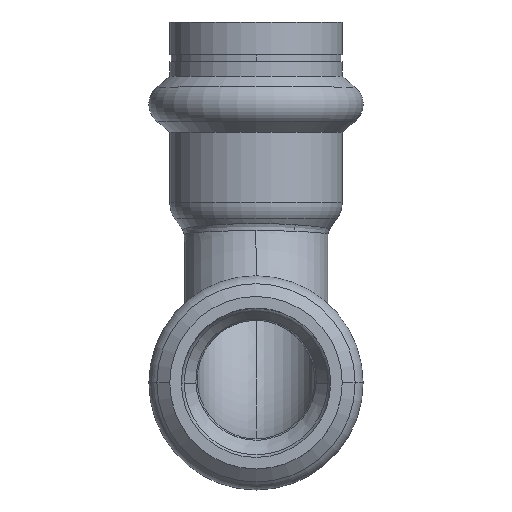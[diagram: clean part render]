
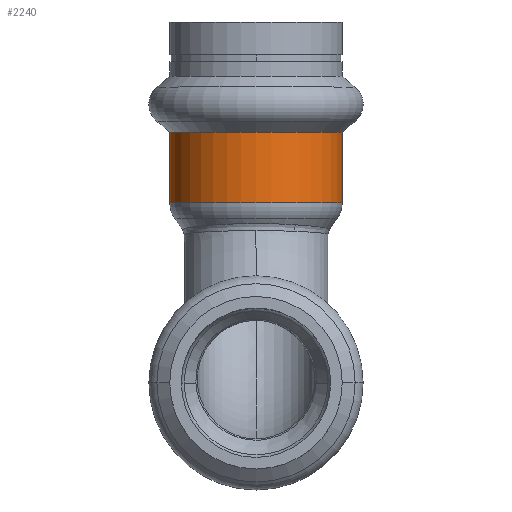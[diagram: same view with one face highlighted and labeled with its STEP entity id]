
A CAD part, top view. The second image highlights one B-rep face of the part: STEP entity #2240.
In plain terms, the highlighted cylindrical face has radius 10.5 mm (diameter 21 mm), a partial arc.
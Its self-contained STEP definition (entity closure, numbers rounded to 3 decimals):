
#133 = LINE ( 'NONE', #1092, #3884 ) ;
#352 = DIRECTION ( 'NONE',  ( 0., 0., 1. ) ) ;
#384 = DIRECTION ( 'NONE',  ( 0., 1., 0. ) ) ;
#456 = CARTESIAN_POINT ( 'NONE',  ( -10.5, 30.59, 0. ) ) ;
#478 = CARTESIAN_POINT ( 'NONE',  ( 0., 30.59, 0. ) ) ;
#600 = CARTESIAN_POINT ( 'NONE',  ( 0., 22., 0. ) ) ;
#607 = DIRECTION ( 'NONE',  ( 0., -1., 0. ) ) ;
#612 = DIRECTION ( 'NONE',  ( 1., 0., 0. ) ) ;
#735 = CARTESIAN_POINT ( 'NONE',  ( 10.5, 22., 0. ) ) ;
#804 = ORIENTED_EDGE ( 'NONE', *, *, #2037, .F. ) ;
#874 = EDGE_CURVE ( 'NONE', #1594, #2847, #2962, .T. ) ;
#1090 = DIRECTION ( 'NONE',  ( 0., 1., 0. ) ) ;
#1092 = CARTESIAN_POINT ( 'NONE',  ( -10.5, 62.626, 0. ) ) ;
#1108 = DIRECTION ( 'NONE',  ( 0., 1., 0. ) ) ;
#1241 = EDGE_LOOP ( 'NONE', ( #3976, #804, #2477, #1853 ) ) ;
#1443 = DIRECTION ( 'NONE',  ( 1., 0., 0. ) ) ;
#1453 = CARTESIAN_POINT ( 'NONE',  ( 0., 62.626, 0. ) ) ;
#1493 = DIRECTION ( 'NONE',  ( 0., 1., 0. ) ) ;
#1583 = CARTESIAN_POINT ( 'NONE',  ( 10.5, 62.626, 0. ) ) ;
#1594 = VERTEX_POINT ( 'NONE', #735 ) ;
#1711 = EDGE_CURVE ( 'NONE', #2623, #3907, #133, .T. ) ;
#1754 = EDGE_CURVE ( 'NONE', #3907, #2847, #3623, .T. ) ;
#1853 = ORIENTED_EDGE ( 'NONE', *, *, #1754, .F. ) ;
#1877 = AXIS2_PLACEMENT_3D ( 'NONE', #1453, #1493, #1443 ) ;
#2006 = CIRCLE ( 'NONE', #2631, 10.5 ) ;
#2037 = EDGE_CURVE ( 'NONE', #1594, #2623, #2006, .T. ) ;
#2069 = CYLINDRICAL_SURFACE ( 'NONE', #1877, 10.5 ) ;
#2240 = ADVANCED_FACE ( 'NONE', ( #2701 ), #2069, .T. ) ;
#2477 = ORIENTED_EDGE ( 'NONE', *, *, #874, .T. ) ;
#2623 = VERTEX_POINT ( 'NONE', #2660 ) ;
#2631 = AXIS2_PLACEMENT_3D ( 'NONE', #600, #607, #612 ) ;
#2660 = CARTESIAN_POINT ( 'NONE',  ( -10.5, 22., 0. ) ) ;
#2701 = FACE_OUTER_BOUND ( 'NONE', #1241, .T. ) ;
#2824 = VECTOR ( 'NONE', #1090, 1000. ) ;
#2847 = VERTEX_POINT ( 'NONE', #3563 ) ;
#2962 = LINE ( 'NONE', #1583, #2824 ) ;
#3023 = AXIS2_PLACEMENT_3D ( 'NONE', #478, #384, #352 ) ;
#3563 = CARTESIAN_POINT ( 'NONE',  ( 10.5, 30.59, 0. ) ) ;
#3623 = CIRCLE ( 'NONE', #3023, 10.5 ) ;
#3884 = VECTOR ( 'NONE', #1108, 1000. ) ;
#3907 = VERTEX_POINT ( 'NONE', #456 ) ;
#3976 = ORIENTED_EDGE ( 'NONE', *, *, #1711, .F. ) ;
